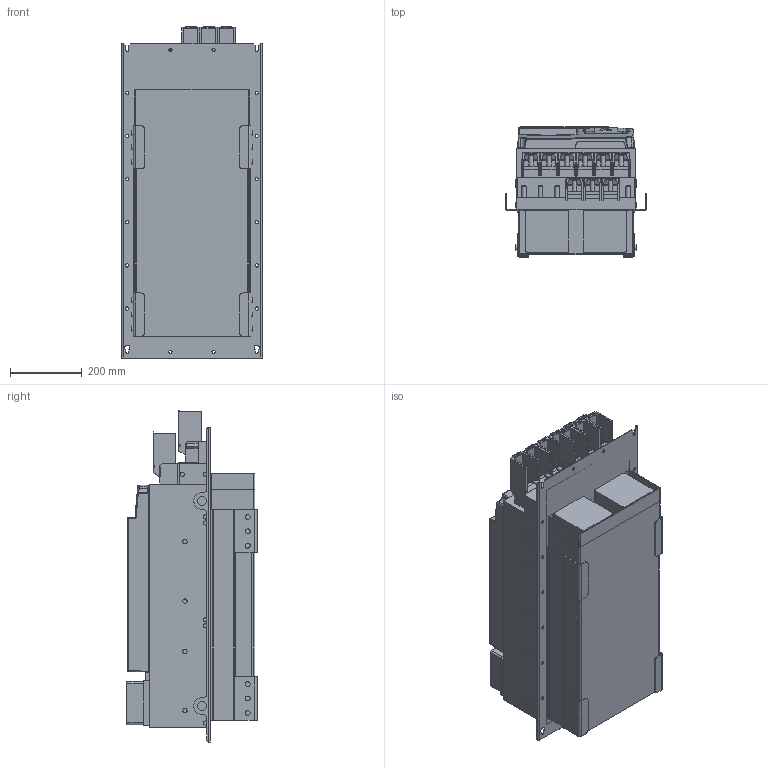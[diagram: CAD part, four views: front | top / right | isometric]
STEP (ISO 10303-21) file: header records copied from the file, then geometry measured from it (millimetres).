
FILE_DESCRIPTION (( 'STEP AP214' ), '1' );
FILE_NAME ('F6-8TR5-A030.STEP', '2021-03-02T14:32:30', ( '' ), ( '' ), 'SwSTEP 2.0', 'SolidWorks 2019', '' );
FILE_SCHEMA (( 'AUTOMOTIVE_DESIGN' ));
Length unit declared in the file: millimetre
Products named in the file (15): 10061505_000; 10063199_000; 10059764_000_Blindabdeckung (Kundenmodell); 10063180_000; 10059763_000; 10063850_000_Kundenmodell; 10044088_000_Kundenmodell; 10063852_000; 10040552_000_Kundenmodell; 10035736_000_Kundenmodell; 10059765_000; 10038044_000_Kundemodell; 10047771_000_Kundenmodell; F6-8TR5-A030; 10063225_000
Assembly tree (14 placements, depth 4):
  F6-8TR5-A030
    10063850_000_Kundenmodell
      10038044_000_Kundemodell
        10063180_000
      10063852_000
    10040552_000_Kundenmodell
      10047771_000_Kundenmodell
        10063225_000
      10063199_000
    10044088_000_Kundenmodell
      10061505_000
    10035736_000_Kundenmodell
      10059764_000_Blindabdeckung (Kundenmodell)
        10059765_000
      10059763_000
Bounding box: 392 x 361.9 x 923.32 mm (x, y, z)
Volume: 83268157.8 mm3; surface area: 3133280.5 mm2
Topology: 7 solids, 43 shells, 3211 faces, 8153 edges, 5077 vertices
Faces by surface type: plane 1688, cylinder 951, bspline 245, sphere 154, cone 104, torus 69
Entity records: 103078 total; most frequent: CARTESIAN_POINT 26742, ORIENTED_EDGE 16084, DIRECTION 15151, EDGE_CURVE 8042, LINE 5165, VECTOR 5165, VERTEX_POINT 5074, AXIS2_PLACEMENT_3D 4993
